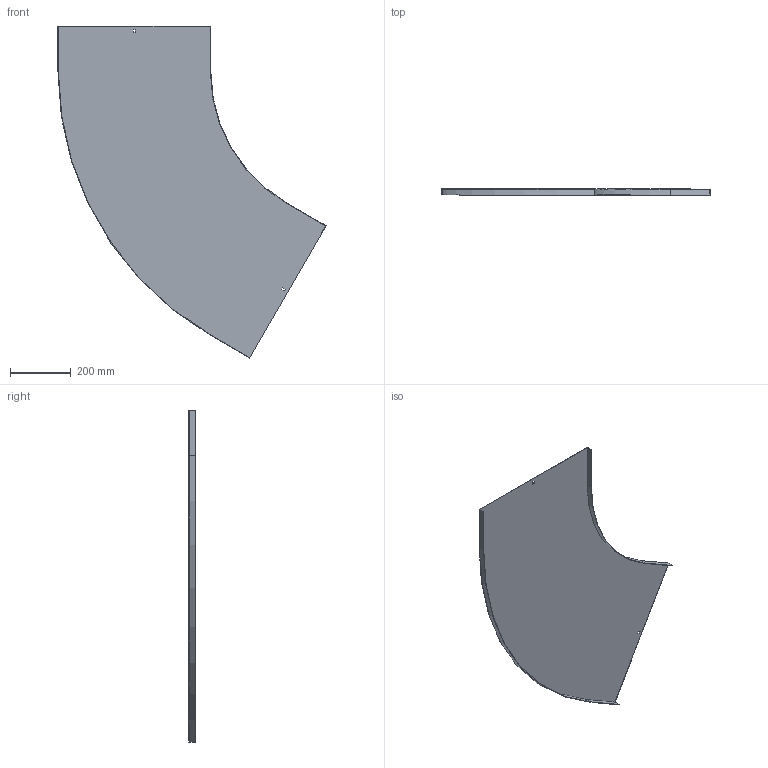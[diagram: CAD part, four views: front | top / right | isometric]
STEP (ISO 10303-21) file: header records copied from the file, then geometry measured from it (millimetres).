
FILE_DESCRIPTION (( 'STEP AP214' ), '1' );
FILE_NAME ('13N5R500.step', '2025-02-21T14:27:14', ( '' ), ( '' ), 'SwSTEP 2.0', 'SolidWorks 2023', '' );
FILE_SCHEMA (( 'AUTOMOTIVE_DESIGN' ));
Length unit declared in the file: millimetre
Products named in the file (1): 13N5R500
Bounding box: 882.15 x 20 x 1092.32 mm (x, y, z)
Volume: 878997 mm3; surface area: 1176965.2 mm2
Topology: 1 solids, 1 shells, 26 faces, 72 edges, 48 vertices
Faces by surface type: plane 22, cylinder 4
Entity records: 855 total; most frequent: CARTESIAN_POINT 147, ORIENTED_EDGE 144, DIRECTION 134, EDGE_CURVE 72, VECTOR 64, LINE 64, VERTEX_POINT 48, AXIS2_PLACEMENT_3D 35
